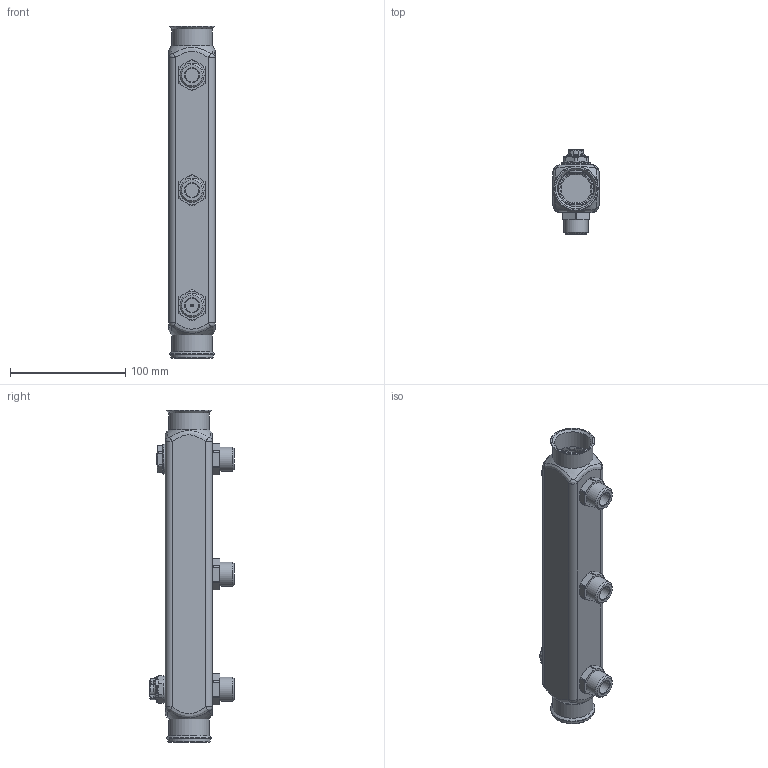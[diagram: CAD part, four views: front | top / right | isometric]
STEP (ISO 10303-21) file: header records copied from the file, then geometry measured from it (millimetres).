
FILE_DESCRIPTION(('STEP AP203'), '1');
FILE_NAME('VTc.510.SQ.060403', '2025-12-12T11:51:14', ('verevichevva'), ('Vesta'), 'C3D Converter', 'C3D Toolkit', '');
FILE_SCHEMA(('CONFIG_CONTROL_DESIGN'));
Length unit declared in the file: millimetre
Products named in the file (1): ВР.622621.193.000 СБ
Bounding box: 40 x 73.6 x 288.5 mm (x, y, z)
Volume: 99756.5 mm3; surface area: 100333.7 mm2
Topology: 1 solids, 14 shells, 758 faces, 1938 edges, 1238 vertices
Faces by surface type: plane 303, cylinder 122, extrusion 118, cone 110, bspline 72, torus 33
Full cylindrical faces by diameter (mm): 1.6 x1, 2.3 x1, 3.4 x1, 4.134 x1, 5 x1, 5.3 x1, 6.3 x2, 9.6 x1, 10.2 x1, 12 x3, 13 x1, 14 x1, 15.7 x1, 18 x4, 18.5 x1, 19 x5, 19.5 x1, 20 x1, 20.955 x7, 22 x1, 22.2 x5, 23 x1, 24 x1, 25.5 x1, 26 x1, 28 x1, 30 x2, 31.8 x3, 35 x2, 35.3 x2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
Entity records: 31829 total; most frequent: CARTESIAN_POINT 15147, ORIENTED_EDGE 3594, DIRECTION 2863, EDGE_CURVE 1797, VERTEX_POINT 1232, AXIS2_PLACEMENT_3D 979, EDGE_LOOP 951, VECTOR 905
